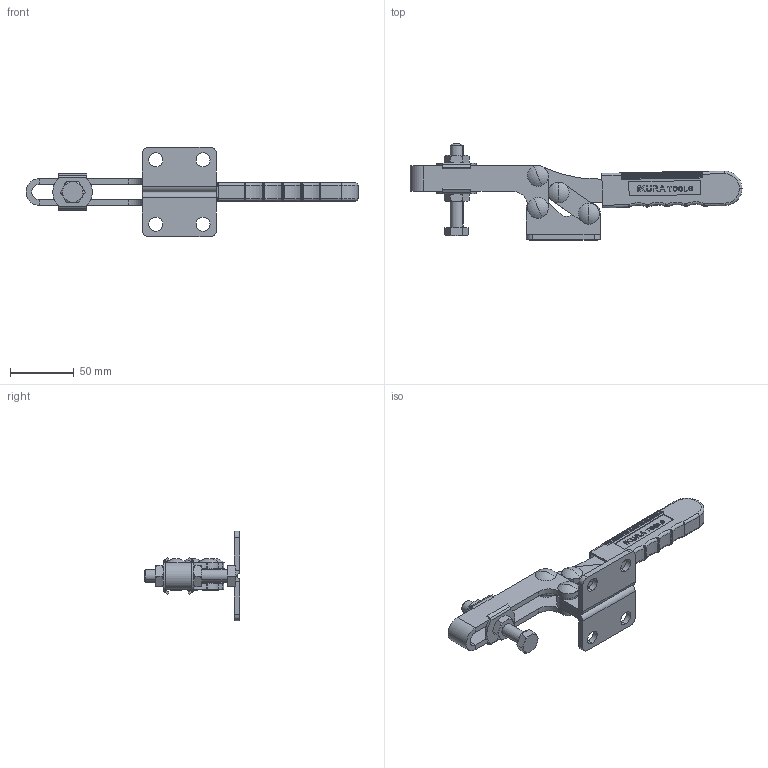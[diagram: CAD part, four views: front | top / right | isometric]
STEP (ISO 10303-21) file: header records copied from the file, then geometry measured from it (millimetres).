
FILE_DESCRIPTION (( 'STEP AP214' ), '1' );
FILE_NAME ('ISK-38D0.STEP', '2015-06-29T09:59:38', ( '' ), ( '' ), 'SwSTEP 2.0', 'SolidWorks 2015', '' );
FILE_SCHEMA (( 'AUTOMOTIVE_DESIGN' ));
Length unit declared in the file: millimetre
Products named in the file (11): Arm; Base; ISK-38D0; oval head semi-tubular rivets gb_GB_CONNECTING_PIECE_RIVET_OHSR 8X22; hexagon nut_3_jis_JIS B 1181 Hexagon nut - Class 3 Finished M10 --N; continuous thread hexagon head bolt_c_jis_JIS B 1180 Continuous thread hexagon head bolt C M10 x 65 --WN; Washer_D10-20; Grip; Washer_兂16亊兂8.2; Link; Handle
Assembly tree (23 placements, depth 2):
  ISK-38D0
    Base
    Arm
    Handle
    Link  x2
    Washer_兂16亊兂8.2  x8
    Grip
    Washer_D10-20  x2
    continuous thread hexagon head bolt_c_jis_JIS B 1180 Continuous thread hexagon head bolt C M10 x 65 --WN
    hexagon nut_3_jis_JIS B 1181 Hexagon nut - Class 3 Finished M10 --N  x2
    oval head semi-tubular rivets gb_GB_CONNECTING_PIECE_RIVET_OHSR 8X22  x4
Bounding box: 259.94 x 75.1 x 70 mm (x, y, z)
Volume: 121852.5 mm3; surface area: 67531 mm2
Topology: 24 solids, 24 shells, 1514 faces, 4130 edges, 2680 vertices
Faces by surface type: plane 857, cylinder 421, bspline 144, cone 48, sphere 24, torus 20
Entity records: 50400 total; most frequent: CARTESIAN_POINT 14972, ORIENTED_EDGE 7626, DIRECTION 6789, EDGE_CURVE 3813, VECTOR 2695, LINE 2695, VERTEX_POINT 2498, AXIS2_PLACEMENT_3D 2047
